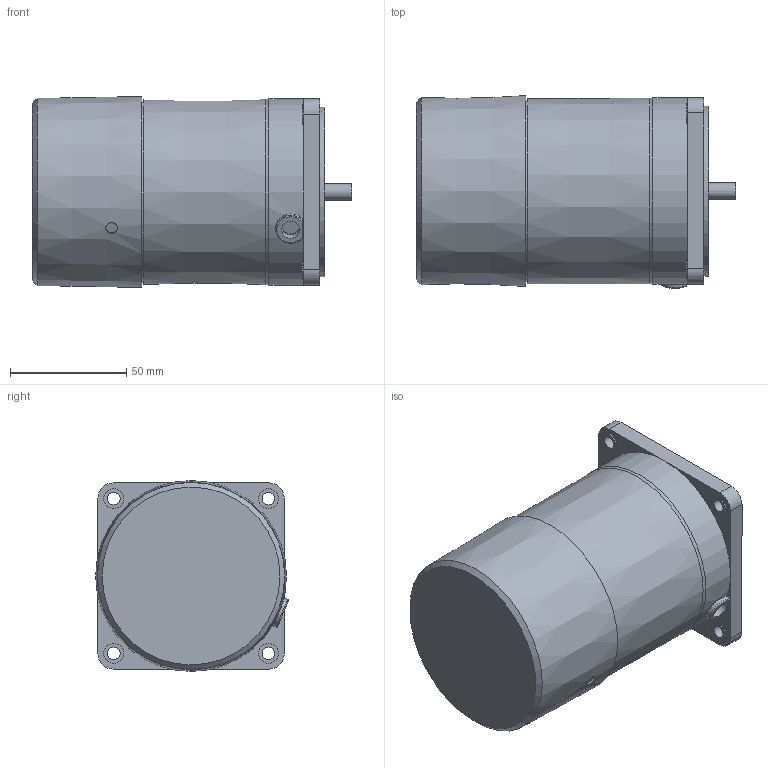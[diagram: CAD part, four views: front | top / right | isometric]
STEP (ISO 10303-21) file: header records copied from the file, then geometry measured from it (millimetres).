
FILE_DESCRIPTION((''),'2;1');
FILE_NAME('\\Spgrnd02\고객배포용도면\3D\01 Standard AC Motor\03 ELECTROMAGNETIC BRAKE MOTOR\03_815_BK\S8R15(25)G-E_R01.stp','2015-03-23T18:00:25',('smkim'),(''),'Autodesk Inventor 2012','Autodesk Inventor 2012','');
FILE_SCHEMA(('AUTOMOTIVE_DESIGN { 1 0 10303 214 1 1 1 1 }'));
Length unit declared in the file: millimetre
Products named in the file (1): S8R15(25)G-E
Bounding box: 137.1 x 82.79 x 82 mm (x, y, z)
Volume: 629699 mm3; surface area: 47724.9 mm2
Topology: 1 solids, 2 shells, 85 faces, 191 edges, 125 vertices
Faces by surface type: plane 48, cylinder 32, cone 3, torus 2
Full cylindrical faces by diameter (mm): 5 x1, 5.5 x4, 7.2 x1, 8 x1, 8.5 x4, 34 x1, 73 x1, 78 x1, 80 x1
Entity records: 2478 total; most frequent: CARTESIAN_POINT 469, DIRECTION 410, ORIENTED_EDGE 340, EDGE_CURVE 170, AXIS2_PLACEMENT_3D 160, EDGE_LOOP 127, VERTEX_POINT 123, VECTOR 90
